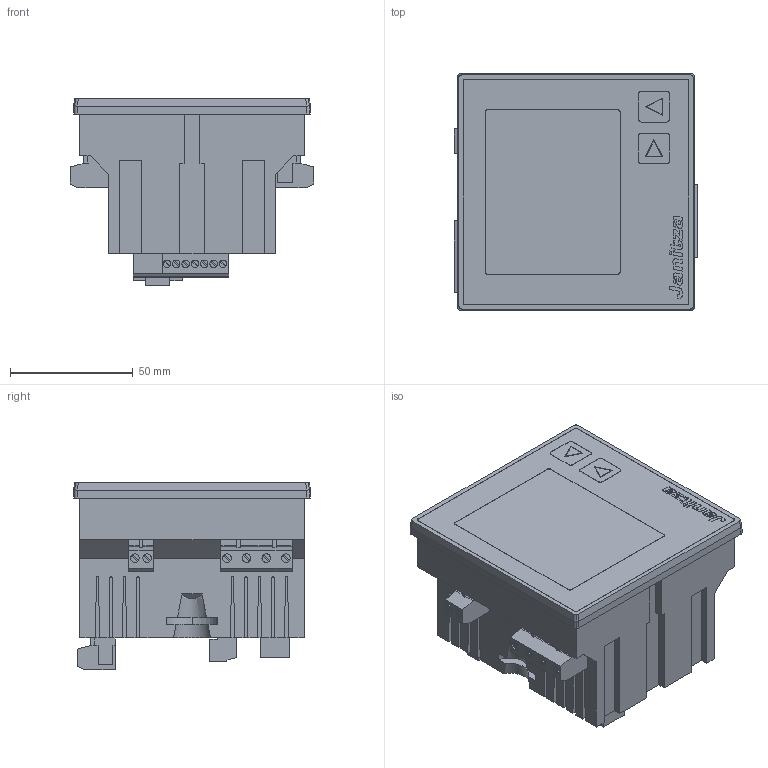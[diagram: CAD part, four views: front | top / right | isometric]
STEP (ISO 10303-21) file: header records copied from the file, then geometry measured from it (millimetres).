
FILE_DESCRIPTION((''),'2;1');
FILE_NAME('C:\Janitza\UMG96RM-CBM.stp','2013-05-06T20:23:04',('Potschkay'),(''),'Autodesk Inventor 7','Autodesk Inventor 7','');
FILE_SCHEMA(('AUTOMOTIVE_DESIGN { 1 0 10303 214 1 1 1 1 }'));
Length unit declared in the file: millimetre
Products named in the file (12): UMG96RM-CBM; Blende_UMG96; Taste2; Leiste8; Leiste6; Leiste7; Klemme1; Klemme2; Klemme3; Klemme4; USB
Assembly tree (12 placements, depth 2):
  UMG96RM-CBM
    UMG96RM-CBM
    Blende_UMG96
    Taste2  x2
    Leiste8
    Leiste6
    Leiste7
    Klemme1
    Klemme2
    Klemme3
    Klemme4
    USB
Bounding box: 99 x 96.5 x 76.5 mm (x, y, z)
Volume: 460969.8 mm3; surface area: 70582.7 mm2
Topology: 16 solids, 16 shells, 973 faces, 2634 edges, 1750 vertices
Faces by surface type: plane 690, cylinder 155, bspline 128
Entity records: 31530 total; most frequent: CARTESIAN_POINT 7358, ORIENTED_EDGE 5160, DIRECTION 4566, EDGE_CURVE 2580, VECTOR 2002, LINE 2002, VERTEX_POINT 1714, AXIS2_PLACEMENT_3D 1282
